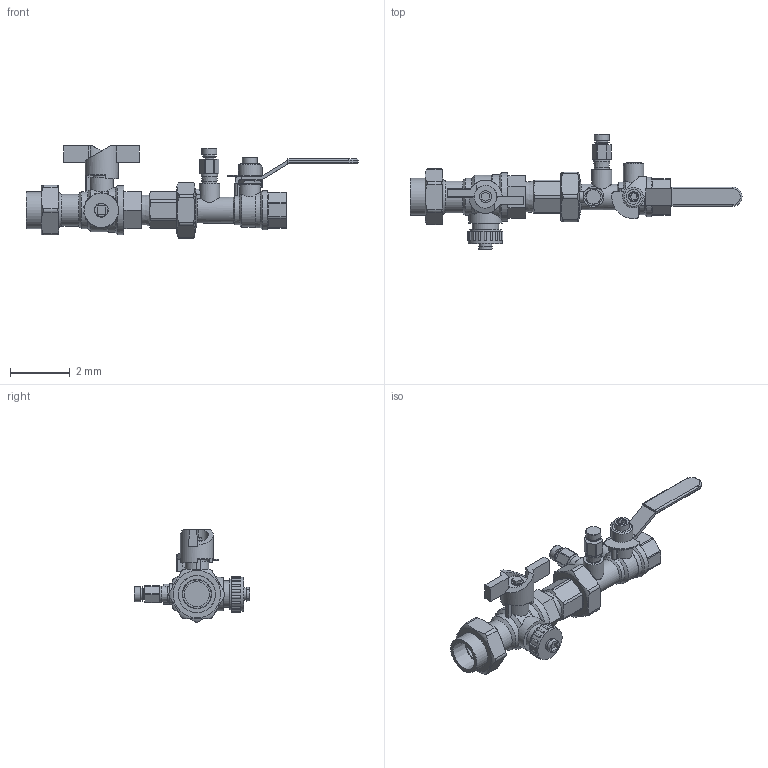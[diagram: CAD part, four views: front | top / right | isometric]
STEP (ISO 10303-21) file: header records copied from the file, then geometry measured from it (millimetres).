
FILE_DESCRIPTION(('Open CASCADE Model'),'2;1');
FILE_NAME('Open CASCADE Shape Model','2021-09-29T15:32:36',('Author'),( 'Open CASCADE'),'Open CASCADE STEP processor 7.3','Open CASCADE 7.3' ,'Unknown');
FILE_SCHEMA(('AUTOMOTIVE_DESIGN { 1 0 10303 214 1 1 1 1 }'));
Length unit declared in the file: millimetre
Products named in the file (7): Open CASCADE STEP translator 7.3 1; Open CASCADE STEP translator 7.3 1.1; Open CASCADE STEP translator 7.3 1.2; Open CASCADE STEP translator 7.3 1.2.1; Open CASCADE STEP translator 7.3 1.2.2; Open CASCADE STEP translator 7.3 1.2.3; Open CASCADE STEP translator 7.3 1.2.4
Assembly tree (6 placements, depth 3):
  Open CASCADE STEP translator 7.3 1
    Open CASCADE STEP translator 7.3 1.1
    Open CASCADE STEP translator 7.3 1.2
      Open CASCADE STEP translator 7.3 1.2.1
      Open CASCADE STEP translator 7.3 1.2.2
      Open CASCADE STEP translator 7.3 1.2.3
      Open CASCADE STEP translator 7.3 1.2.4
Bounding box: 11.15 x 3.89 x 3.1 mm (x, y, z)
Volume: 13.1 mm3; surface area: 106.8 mm2
Topology: 2 solids, 19 shells, 645 faces, 1664 edges, 1094 vertices
Faces by surface type: plane 355, cylinder 191, cone 84, torus 11, sphere 2, bspline 2
Full cylindrical faces by diameter (mm): 0.15 x1, 0.175 x1, 0.2 x1, 0.205 x1, 0.255 x1, 0.3 x1, 0.312 x2, 0.345 x2, 0.385 x2, 0.4 x1, 0.405 x2, 0.42 x1, 0.5 x2, 0.505 x2, 0.545 x3, 0.55 x1, 0.578 x1, 0.585 x1, 0.595 x1, 0.66 x2, 0.679 x1, 0.685 x2, 0.745 x1, 0.765 x1, 0.77 x2, 0.791 x3, 0.811 x1, 0.84 x1, 0.863 x1, 0.865 x1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
Entity records: 52140 total; most frequent: CARTESIAN_POINT 20020, DIRECTION 5798, ORIENTED_EDGE 3316, PCURVE 3316, DEFINITIONAL_REPRESENTATION 3316, LINE 3071, VECTOR 3071, EDGE_CURVE 1663
